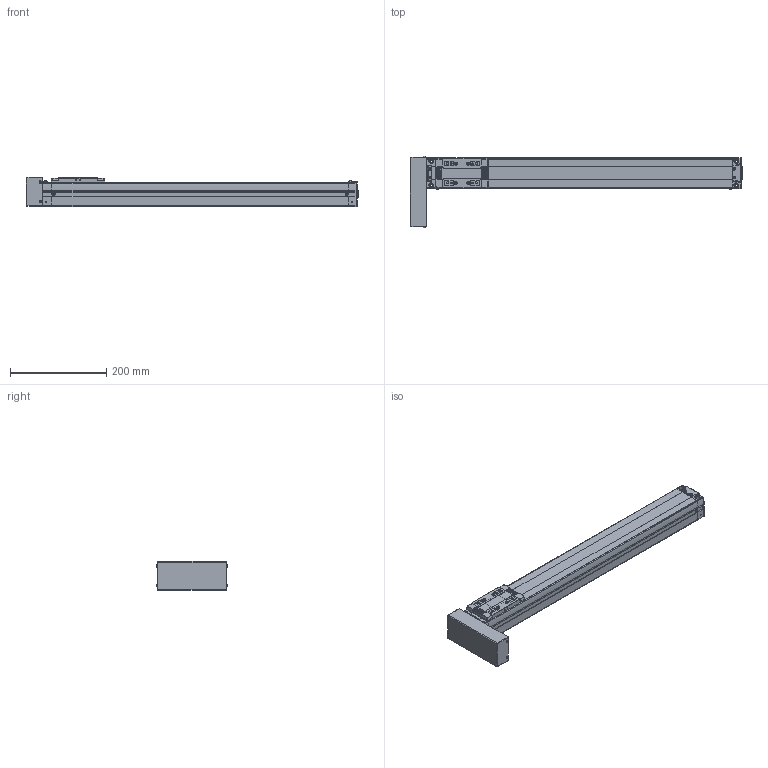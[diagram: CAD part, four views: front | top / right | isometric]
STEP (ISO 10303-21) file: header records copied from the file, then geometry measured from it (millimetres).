
FILE_DESCRIPTION(('STEP AP214'),'1');
FILE_NAME('Z:/Web/3D/SAN65/STP/SAN65ㅁㅁ-500PR.stp','2012-06-14T06:29:06',(' '),(' '),'Spatial InterOp 3D',' ',' ');
FILE_SCHEMA(('automotive_design'));
Length unit declared in the file: metre
Products named in the file (34): SAN65__-500; BODY-SAN65; REAR-SAN65; RRCV-SAN65; 스크루 : Round - M3.0 x 6.0; FRONT-SAN65; SHAFT-SAN65; RN8 x 0.75; SSFX-SAN65; SLIDE-SAN65; SLCV-SAN65; 스크루 : Countersunk - M3.0 x 6.0; ____204; PR; BTCV-SAN65; BHCS M3 X 6L
Assembly tree (33 placements, depth 4):
  ____204
    SAN65__-500
      BODY-SAN65
      REAR-SAN65
        REAR-SAN65
        RRCV-SAN65
        스크루 : Round - M3.0 x 6.0
        스크루 : Round - M3.0 x 6.0
        스크루 : Round - M3.0 x 6.0
        스크루 : Round - M3.0 x 6.0
        스크루 : Round - M3.0 x 6.0
        스크루 : Round - M3.0 x 6.0
      FRONT-SAN65
        FRONT-SAN65
        SHAFT-SAN65
        RN8 x 0.75
        SSFX-SAN65
        스크루 : Round - M3.0 x 6.0
        스크루 : Round - M3.0 x 6.0
        스크루 : Round - M3.0 x 6.0
        스크루 : Round - M3.0 x 6.0
      SLIDE-SAN65
        SLIDE-SAN65
        SLCV-SAN65
        스크루 : Countersunk - M3.0 x 6.0
        스크루 : Countersunk - M3.0 x 6.0
        스크루 : Countersunk - M3.0 x 6.0
        스크루 : Countersunk - M3.0 x 6.0
    PR
      BTCV-SAN65
      BHCS M3 X 6L
      BHCS M3 X 6L
      BHCS M3 X 6L
      BHCS M3 X 6L
Bounding box: 690.15 x 149.13 x 61 mm (x, y, z)
Volume: 2378531.7 mm3; surface area: 270132.3 mm2
Topology: 28 solids, 28 shells, 1482 faces, 3789 edges, 2460 vertices
Faces by surface type: plane 892, cylinder 427, cone 89, bspline 30, sphere 26, torus 15, extrusion 3
Full cylindrical faces by diameter (mm): 0.571 x2, 0.706 x1, 1.727 x2, 2.132 x1, 2.2 x4, 2.5 x9, 2.528 x4, 3 x6, 3.121 x2, 3.3 x4, 3.4 x8, 3.5 x6, 4.2 x36, 4.849 x4, 5 x2, 5.5 x4, 5.987 x2, 6 x6, 6.35 x1, 7 x1, 8 x4, 9.5 x4, 13 x1, 15 x1, 19 x1, 26 x1, 38.1 x1
Entity records: 60388 total; most frequent: CARTESIAN_POINT 12404, DIRECTION 7419, ORIENTED_EDGE 6960, EDGE_CURVE 3480, AXIS2_PLACEMENT_3D 2541, VERTEX_POINT 2410, VECTOR 2337, LINE 2334
